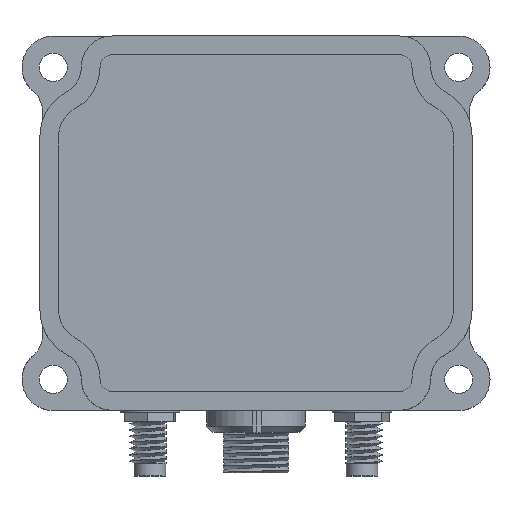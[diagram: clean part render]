
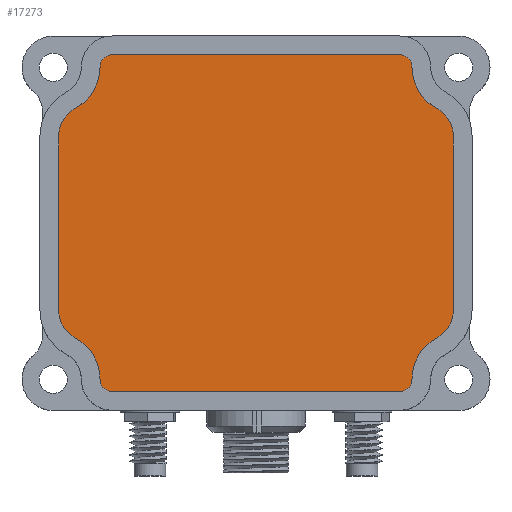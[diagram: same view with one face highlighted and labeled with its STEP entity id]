
A CAD part, top view. The second image highlights one B-rep face of the part: STEP entity #17273.
In plain terms, the highlighted planar face has unit normal (0, 0, 1).
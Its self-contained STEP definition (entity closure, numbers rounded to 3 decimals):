
#389 = VERTEX_POINT ( 'NONE', #43160 ) ;
#733 = AXIS2_PLACEMENT_3D ( 'NONE', #42037, #11191, #24670 ) ;
#1015 = CARTESIAN_POINT ( 'NONE',  ( 31.369, -22.859, 87.4 ) ) ;
#1040 = CIRCLE ( 'NONE', #733, 5.002 ) ;
#1065 = ORIENTED_EDGE ( 'NONE', *, *, #7630, .T. ) ;
#1270 = CARTESIAN_POINT ( 'NONE',  ( -32.751, -11.829, 87.4 ) ) ;
#1621 = CIRCLE ( 'NONE', #18650, 7.5 ) ;
#1649 = DIRECTION ( 'NONE',  ( 1., 0., 0. ) ) ;
#1686 = DIRECTION ( 'NONE',  ( 0., 0., 1. ) ) ;
#1763 = AXIS2_PLACEMENT_3D ( 'NONE', #21785, #1686, #28515 ) ;
#1776 = VERTEX_POINT ( 'NONE', #41201 ) ;
#1821 = ORIENTED_EDGE ( 'NONE', *, *, #4237, .T. ) ;
#2115 = VERTEX_POINT ( 'NONE', #26179 ) ;
#2408 = DIRECTION ( 'NONE',  ( 0., 0., 1. ) ) ;
#2431 = EDGE_CURVE ( 'NONE', #39127, #14279, #5417, .T. ) ;
#2438 = LINE ( 'NONE', #21293, #8186 ) ;
#2732 = VERTEX_POINT ( 'NONE', #15273 ) ;
#3233 = AXIS2_PLACEMENT_3D ( 'NONE', #40502, #26939, #43431 ) ;
#4237 = EDGE_CURVE ( 'NONE', #2732, #39127, #13199, .T. ) ;
#4459 = CARTESIAN_POINT ( 'NONE',  ( 21.869, 27.141, 87.4 ) ) ;
#4741 = VERTEX_POINT ( 'NONE', #6526 ) ;
#4819 = DIRECTION ( 'NONE',  ( 1., 0., 0. ) ) ;
#4858 = DIRECTION ( 'NONE',  ( 0., 0., 1. ) ) ;
#5005 = EDGE_CURVE ( 'NONE', #13030, #4741, #1040, .T. ) ;
#5254 = CARTESIAN_POINT ( 'NONE',  ( 30.489, -11.829, 87.4 ) ) ;
#5417 = LINE ( 'NONE', #21752, #23296 ) ;
#6198 = CIRCLE ( 'NONE', #16520, 7.5 ) ;
#6395 = AXIS2_PLACEMENT_3D ( 'NONE', #15108, #4858, #22026 ) ;
#6450 = ORIENTED_EDGE ( 'NONE', *, *, #2431, .T. ) ;
#6526 = CARTESIAN_POINT ( 'NONE',  ( -32.751, 16.112, 87.4 ) ) ;
#7136 = CARTESIAN_POINT ( 'NONE',  ( -30.207, 20.469, 87.4 ) ) ;
#7210 = AXIS2_PLACEMENT_3D ( 'NONE', #8459, #15204, #31973 ) ;
#7231 = CARTESIAN_POINT ( 'NONE',  ( 25.486, 16.112, 87.4 ) ) ;
#7372 = DIRECTION ( 'NONE',  ( 1., 0., 0. ) ) ;
#7630 = EDGE_CURVE ( 'NONE', #2115, #8229, #23993, .T. ) ;
#7986 = CIRCLE ( 'NONE', #39049, 7.5 ) ;
#8027 = VERTEX_POINT ( 'NONE', #12919 ) ;
#8186 = VECTOR ( 'NONE', #17814, 1000. ) ;
#8229 = VERTEX_POINT ( 'NONE', #26286 ) ;
#8459 = CARTESIAN_POINT ( 'NONE',  ( -1.131, 2.141, 87.4 ) ) ;
#8860 = EDGE_LOOP ( 'NONE', ( #21986, #1821, #6450, #40947, #27097, #27200, #26499, #20968, #36884, #1065, #28320, #35679, #18918, #10474, #37651, #10997 ) ) ;
#9258 = LINE ( 'NONE', #25323, #13446 ) ;
#9278 = VERTEX_POINT ( 'NONE', #1270 ) ;
#9297 = VERTEX_POINT ( 'NONE', #24744 ) ;
#9347 = CARTESIAN_POINT ( 'NONE',  ( 23.869, -22.859, 87.4 ) ) ;
#10474 = ORIENTED_EDGE ( 'NONE', *, *, #5005, .T. ) ;
#10997 = ORIENTED_EDGE ( 'NONE', *, *, #41158, .T. ) ;
#11062 = CIRCLE ( 'NONE', #6395, 5.002 ) ;
#11191 = DIRECTION ( 'NONE',  ( 0., 0., 1. ) ) ;
#11387 = CARTESIAN_POINT ( 'NONE',  ( -26.131, 27.141, 87.4 ) ) ;
#11477 = EDGE_CURVE ( 'NONE', #1776, #8229, #9258, .T. ) ;
#12106 = CARTESIAN_POINT ( 'NONE',  ( 31.369, 27.141, 87.4 ) ) ;
#12374 = DIRECTION ( 'NONE',  ( 1., 0., 0. ) ) ;
#12919 = CARTESIAN_POINT ( 'NONE',  ( 27.945, 20.469, 87.4 ) ) ;
#13030 = VERTEX_POINT ( 'NONE', #7136 ) ;
#13199 = CIRCLE ( 'NONE', #1763, 2. ) ;
#13446 = VECTOR ( 'NONE', #28549, 1000. ) ;
#13792 = EDGE_CURVE ( 'NONE', #9297, #8027, #39957, .T. ) ;
#13933 = DIRECTION ( 'NONE',  ( 0., 0., 1. ) ) ;
#14279 = VERTEX_POINT ( 'NONE', #17312 ) ;
#14745 = CIRCLE ( 'NONE', #29760, 7.5 ) ;
#14817 = CARTESIAN_POINT ( 'NONE',  ( 30.489, 2.141, 87.4 ) ) ;
#15108 = CARTESIAN_POINT ( 'NONE',  ( -27.749, -11.829, 87.4 ) ) ;
#15204 = DIRECTION ( 'NONE',  ( 0., 0., 1. ) ) ;
#15273 = CARTESIAN_POINT ( 'NONE',  ( -26.131, -22.859, 87.4 ) ) ;
#16520 = AXIS2_PLACEMENT_3D ( 'NONE', #12106, #35638, #12374 ) ;
#17273 = ADVANCED_FACE ( 'NONE', ( #26914 ), #18460, .T. ) ;
#17312 = CARTESIAN_POINT ( 'NONE',  ( 21.869, -24.859, 87.4 ) ) ;
#17766 = DIRECTION ( 'NONE',  ( 0., 0., 1. ) ) ;
#17814 = DIRECTION ( 'NONE',  ( 0., -1., 0. ) ) ;
#18460 = PLANE ( 'NONE',  #7210 ) ;
#18650 = AXIS2_PLACEMENT_3D ( 'NONE', #29415, #2408, #32969 ) ;
#18858 = EDGE_CURVE ( 'NONE', #2115, #8027, #6198, .T. ) ;
#18918 = ORIENTED_EDGE ( 'NONE', *, *, #42593, .F. ) ;
#19305 = AXIS2_PLACEMENT_3D ( 'NONE', #4459, #30912, #34607 ) ;
#19416 = EDGE_CURVE ( 'NONE', #4741, #9278, #2438, .T. ) ;
#19479 = EDGE_CURVE ( 'NONE', #9297, #26210, #42922, .T. ) ;
#19624 = VERTEX_POINT ( 'NONE', #37791 ) ;
#20968 = ORIENTED_EDGE ( 'NONE', *, *, #13792, .T. ) ;
#21026 = AXIS2_PLACEMENT_3D ( 'NONE', #25361, #42152, #42289 ) ;
#21293 = CARTESIAN_POINT ( 'NONE',  ( -32.751, 2.141, 87.4 ) ) ;
#21752 = CARTESIAN_POINT ( 'NONE',  ( -1.131, -24.859, 87.4 ) ) ;
#21785 = CARTESIAN_POINT ( 'NONE',  ( -24.131, -22.859, 87.4 ) ) ;
#21986 = ORIENTED_EDGE ( 'NONE', *, *, #31634, .F. ) ;
#22026 = DIRECTION ( 'NONE',  ( 1., 0., 0. ) ) ;
#22394 = DIRECTION ( 'NONE',  ( 0., 0., 1. ) ) ;
#23066 = EDGE_CURVE ( 'NONE', #14279, #36108, #34744, .T. ) ;
#23296 = VECTOR ( 'NONE', #1649, 1000. ) ;
#23993 = CIRCLE ( 'NONE', #19305, 2. ) ;
#24290 = AXIS2_PLACEMENT_3D ( 'NONE', #7231, #13933, #7372 ) ;
#24670 = DIRECTION ( 'NONE',  ( 1., 0., 0. ) ) ;
#24744 = CARTESIAN_POINT ( 'NONE',  ( 30.489, 16.112, 87.4 ) ) ;
#25086 = DIRECTION ( 'NONE',  ( 0., 0., 1. ) ) ;
#25323 = CARTESIAN_POINT ( 'NONE',  ( -1.131, 29.141, 87.4 ) ) ;
#25361 = CARTESIAN_POINT ( 'NONE',  ( 25.486, -11.829, 87.4 ) ) ;
#26008 = EDGE_CURVE ( 'NONE', #19624, #36108, #14745, .T. ) ;
#26016 = CIRCLE ( 'NONE', #42223, 2. ) ;
#26053 = CARTESIAN_POINT ( 'NONE',  ( -24.131, 27.141, 87.4 ) ) ;
#26179 = CARTESIAN_POINT ( 'NONE',  ( 23.869, 27.141, 87.4 ) ) ;
#26210 = VERTEX_POINT ( 'NONE', #5254 ) ;
#26286 = CARTESIAN_POINT ( 'NONE',  ( 21.869, 29.141, 87.4 ) ) ;
#26499 = ORIENTED_EDGE ( 'NONE', *, *, #19479, .F. ) ;
#26914 = FACE_OUTER_BOUND ( 'NONE', #8860, .T. ) ;
#26939 = DIRECTION ( 'NONE',  ( 0., 0., 1. ) ) ;
#27097 = ORIENTED_EDGE ( 'NONE', *, *, #26008, .F. ) ;
#27200 = ORIENTED_EDGE ( 'NONE', *, *, #35110, .T. ) ;
#27645 = VECTOR ( 'NONE', #37940, 1000. ) ;
#28320 = ORIENTED_EDGE ( 'NONE', *, *, #11477, .F. ) ;
#28515 = DIRECTION ( 'NONE',  ( 1., 0., 0. ) ) ;
#28549 = DIRECTION ( 'NONE',  ( 1., 0., 0. ) ) ;
#28597 = CARTESIAN_POINT ( 'NONE',  ( -33.631, 27.141, 87.4 ) ) ;
#29415 = CARTESIAN_POINT ( 'NONE',  ( -33.631, -22.859, 87.4 ) ) ;
#29760 = AXIS2_PLACEMENT_3D ( 'NONE', #1015, #17766, #4819 ) ;
#29886 = EDGE_CURVE ( 'NONE', #1776, #40451, #26016, .T. ) ;
#30912 = DIRECTION ( 'NONE',  ( 0., 0., 1. ) ) ;
#31634 = EDGE_CURVE ( 'NONE', #2732, #389, #1621, .T. ) ;
#31973 = DIRECTION ( 'NONE',  ( 1., 0., 0. ) ) ;
#32969 = DIRECTION ( 'NONE',  ( 1., 0., 0. ) ) ;
#34607 = DIRECTION ( 'NONE',  ( 1., 0., 0. ) ) ;
#34617 = CIRCLE ( 'NONE', #21026, 5.002 ) ;
#34744 = CIRCLE ( 'NONE', #3233, 2. ) ;
#35110 = EDGE_CURVE ( 'NONE', #19624, #26210, #34617, .T. ) ;
#35638 = DIRECTION ( 'NONE',  ( 0., 0., 1. ) ) ;
#35679 = ORIENTED_EDGE ( 'NONE', *, *, #29886, .T. ) ;
#36108 = VERTEX_POINT ( 'NONE', #9347 ) ;
#36884 = ORIENTED_EDGE ( 'NONE', *, *, #18858, .F. ) ;
#37651 = ORIENTED_EDGE ( 'NONE', *, *, #19416, .T. ) ;
#37791 = CARTESIAN_POINT ( 'NONE',  ( 27.945, -16.186, 87.4 ) ) ;
#37940 = DIRECTION ( 'NONE',  ( 0., -1., 0. ) ) ;
#38356 = DIRECTION ( 'NONE',  ( 1., 0., 0. ) ) ;
#38586 = CARTESIAN_POINT ( 'NONE',  ( -24.131, -24.859, 87.4 ) ) ;
#39049 = AXIS2_PLACEMENT_3D ( 'NONE', #28597, #25086, #38356 ) ;
#39127 = VERTEX_POINT ( 'NONE', #38586 ) ;
#39608 = DIRECTION ( 'NONE',  ( 1., 0., 0. ) ) ;
#39957 = CIRCLE ( 'NONE', #24290, 5.002 ) ;
#40451 = VERTEX_POINT ( 'NONE', #11387 ) ;
#40502 = CARTESIAN_POINT ( 'NONE',  ( 21.869, -22.859, 87.4 ) ) ;
#40947 = ORIENTED_EDGE ( 'NONE', *, *, #23066, .T. ) ;
#41158 = EDGE_CURVE ( 'NONE', #9278, #389, #11062, .T. ) ;
#41201 = CARTESIAN_POINT ( 'NONE',  ( -24.131, 29.141, 87.4 ) ) ;
#42037 = CARTESIAN_POINT ( 'NONE',  ( -27.749, 16.112, 87.4 ) ) ;
#42152 = DIRECTION ( 'NONE',  ( 0., 0., 1. ) ) ;
#42223 = AXIS2_PLACEMENT_3D ( 'NONE', #26053, #22394, #39608 ) ;
#42289 = DIRECTION ( 'NONE',  ( 1., 0., 0. ) ) ;
#42593 = EDGE_CURVE ( 'NONE', #13030, #40451, #7986, .T. ) ;
#42922 = LINE ( 'NONE', #14817, #27645 ) ;
#43160 = CARTESIAN_POINT ( 'NONE',  ( -30.207, -16.186, 87.4 ) ) ;
#43431 = DIRECTION ( 'NONE',  ( 1., 0., 0. ) ) ;
